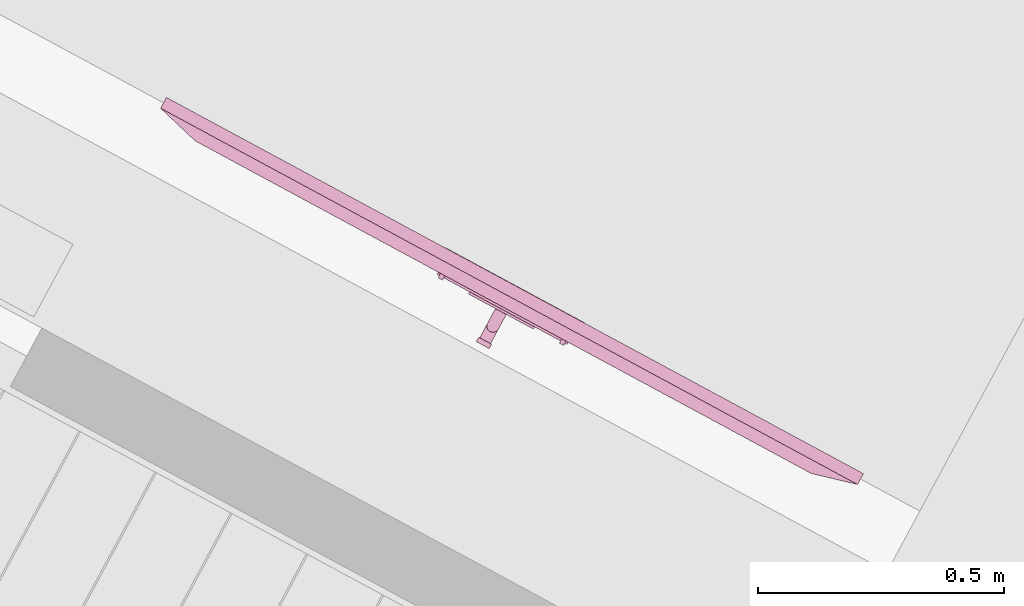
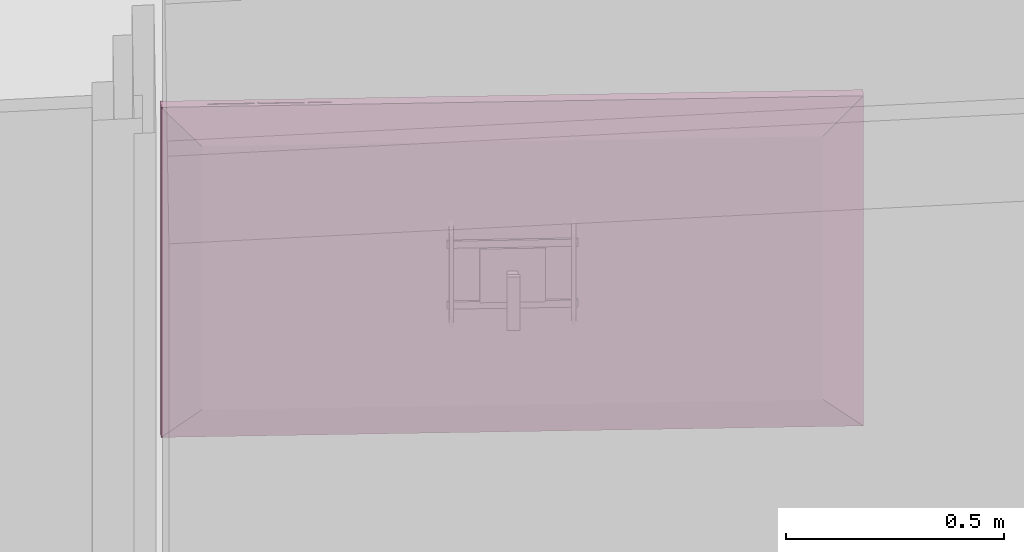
# One storey, part 22 of 48: 1 furnishing.
"""IFC2X3 building model written with IfcOpenShell, lengths in metres."""

import ifcopenshell
import ifcopenshell.guid

model = None  # the IFC model being written
_history = None  # IfcOwnerHistory: only IFC2X3 demands one
_inside = {}  # id of a spatial element -> (the spatial element, [elements in it])
_under = {}  # id of a project, library or spatial element -> (it, [spatial elements below it])
_declared = {}  # id of a project -> (the project, [libraries it declares])
_typed = {}  # id of a type object -> (the type object, [elements of that type])
_made_of = {}  # id of a material, layer set ... -> (it, [elements and type objects made of it])


def new_model(schema):
    """Start an empty IFC model of exactly this schema.

    Asked for "IFC4X3", IfcOpenShell would pick the latest addendum, in which some entities
    have other attributes; the version numbers below select the first issue.
    IFC2X3 requires an IfcOwnerHistory on every rooted entity: one is made here for all.
    """
    global model, _history
    if schema == "IFC4X3":
        model = ifcopenshell.file(schema_version=(4, 3, 0, 0))
    else:
        model = ifcopenshell.file(schema=schema)
    _inside.clear()
    _under.clear()
    _declared.clear()
    _typed.clear()
    _made_of.clear()
    _history = None
    if model.schema == "IFC2X3":
        org = make("IfcOrganization", Name="unknown")
        user = make(
            "IfcPersonAndOrganization",
            ThePerson=make("IfcPerson", FamilyName="unknown"),
            TheOrganization=org,
        )
        app = make(
            "IfcApplication",
            ApplicationDeveloper=org,
            Version="unknown",
            ApplicationFullName="unknown",
            ApplicationIdentifier="unknown",
        )
        _history = make(
            "IfcOwnerHistory",
            OwningUser=user,
            OwningApplication=app,
            ChangeAction="ADDED",
            CreationDate=0,
        )
    return model


def make(cls, **values):
    """One entity of the class cls with the attributes given. An attribute that is None is left unset."""
    return model.create_entity(
        cls, **{name: value for name, value in values.items() if value is not None}
    )


def entity(cls, *values):
    """Any entity or typed value of the class cls, its attributes in the order of the schema. None: left unset."""
    e = model.create_entity(cls)
    for i, value in enumerate(values):
        if value is not None:
            e[i] = value
    return e


def rooted(cls, **values):
    """An entity with a GlobalId (a new one), such as an element, a storey or a relation."""
    return make(cls, GlobalId=ifcopenshell.guid.new(), OwnerHistory=_history, **values)


def si_unit(unit_type, name, prefix=None):
    """IfcSIUnit, for example si_unit("LENGTHUNIT", "METRE", prefix="MILLI")."""
    return make("IfcSIUnit", UnitType=unit_type, Prefix=prefix, Name=name)


def converted_unit(unit_type, name, factor, base, dimensions=None, offset=None):
    """IfcConversionBasedUnit, such as the inch: factor (a typed value) times the base unit."""
    return make(
        "IfcConversionBasedUnit"
        if offset is None
        else "IfcConversionBasedUnitWithOffset",
        ConversionOffset=offset,
        Dimensions=None
        if dimensions is None
        else entity("IfcDimensionalExponents", *dimensions),
        UnitType=unit_type,
        Name=name,
        ConversionFactor=make(
            "IfcMeasureWithUnit", ValueComponent=factor, UnitComponent=base
        ),
    )


def derived_unit(unit_type, elements):
    """IfcDerivedUnit: a product of units, each with its exponent."""
    return make(
        "IfcDerivedUnit",
        Elements=[
            make("IfcDerivedUnitElement", Unit=unit, Exponent=power)
            for unit, power in elements
        ],
        UnitType=unit_type,
    )


def money_unit(currency):
    """IfcMonetaryUnit."""
    return make("IfcMonetaryUnit", Currency=currency)


def assignment(units):
    """IfcUnitAssignment: the units of a project."""
    return None if units is None else make("IfcUnitAssignment", Units=units)


def point(xyz):
    """IfcCartesianPoint."""
    return None if xyz is None else make("IfcCartesianPoint", Coordinates=xyz)


def direction(xyz):
    """IfcDirection."""
    return None if xyz is None else make("IfcDirection", DirectionRatios=xyz)


def frame(location, z_axis=None, x_axis=None):
    """IfcAxis2Placement3D, a coordinate frame: its origin and axes. An axis left out is left unset."""
    return make(
        "IfcAxis2Placement3D",
        Location=point(location),
        Axis=direction(z_axis),
        RefDirection=direction(x_axis),
    )


def origin_with_axes():
    """The frame at (0, 0, 0) with the z axis (0, 0, 1) and the x axis (1, 0, 0) written out."""
    return frame((0.0, 0.0, 0.0), z_axis=(0.0, 0.0, 1.0), x_axis=(1.0, 0.0, 0.0))


def place(relative_to, where):
    """IfcLocalPlacement: puts the frame where relative to a parent placement (None: the world)."""
    return make(
        "IfcLocalPlacement", PlacementRelTo=relative_to, RelativePlacement=where
    )


def context(
    kind, dimensions, precision=None, world=None, true_north=None, identifier=None
):
    """IfcGeometricRepresentationContext, for example the 3D "Model" context."""
    return make(
        "IfcGeometricRepresentationContext",
        ContextIdentifier=identifier,
        ContextType=kind,
        CoordinateSpaceDimension=dimensions,
        Precision=precision,
        WorldCoordinateSystem=world,
        TrueNorth=true_north,
    )


def subcontext(parent, identifier, kind, view, scale=None):
    """IfcGeometricRepresentationSubContext, for example "Body" below "Model"."""
    return make(
        "IfcGeometricRepresentationSubContext",
        ContextIdentifier=identifier,
        ContextType=kind,
        ParentContext=parent,
        TargetScale=scale,
        TargetView=view,
    )


def project(units=None, contexts=None):
    """IfcProject with its units and contexts."""
    return rooted(
        "IfcProject",
        Name="project",
        RepresentationContexts=contexts,
        UnitsInContext=assignment(units),
    )


def spatial(cls, under=None, at=None, **own):
    """A site, building, storey or space (cls), placed at a placement, below another one or the project."""
    s = rooted(cls, ObjectPlacement=at, **own)
    if under is not None:
        _under.setdefault(under.id(), (under, []))[1].append(s)
    return s


def faces_of(points, faces, orient=None, outer=None):
    """IfcFace entities. A face is a list of loops; a loop is a list of indices into points, from 0.

    orient and outer hold one flag for each loop. By default every Orientation is true, the
    first loop of a face is its IfcFaceOuterBound and the others are IfcFaceBound.
    """
    made = []
    for i, loops in enumerate(faces):
        bounds = []
        for j, loop in enumerate(loops):
            is_outer = j == 0 if outer is None else outer[i][j]
            bounds.append(
                make(
                    "IfcFaceOuterBound" if is_outer else "IfcFaceBound",
                    Bound=make("IfcPolyLoop", Polygon=[points[k] for k in loop]),
                    Orientation=True if orient is None else orient[i][j],
                )
            )
        made.append(make("IfcFace", Bounds=bounds))
    return made


def faceted_brep(points, faces, orient=None, outer=None, voids=None):
    """IfcFacetedBrep: a solid bounded by flat faces; with voids (closed shells), ...WithVoids."""
    shared = [point(p) for p in points]
    hull = make("IfcClosedShell", CfsFaces=faces_of(shared, faces, orient, outer))
    if voids is None:
        return make("IfcFacetedBrep", Outer=hull)
    return make(
        "IfcFacetedBrepWithVoids",
        Outer=hull,
        Voids=[
            make(cls, CfsFaces=faces_of(shared, fs, o, b)) for cls, fs, o, b in voids
        ],
    )


def shape(context_of_items, identifier, shape_type, items):
    """IfcShapeRepresentation: the items that make up one representation, for example the "Body"."""
    return make(
        "IfcShapeRepresentation",
        ContextOfItems=context_of_items,
        RepresentationIdentifier=identifier,
        RepresentationType=shape_type,
        Items=items,
    )


def source(mapping_origin, context_of_items, identifier, shape_type, items):
    """IfcRepresentationMap: a shape defined once, which mapped items show again and again."""
    return make(
        "IfcRepresentationMap",
        MappingOrigin=mapping_origin,
        MappedRepresentation=shape(context_of_items, identifier, shape_type, items),
    )


def transform(
    local_origin,
    x_axis=None,
    y_axis=None,
    z_axis=None,
    scale=None,
    scale2=None,
    scale3=None,
    uniform=True,
):
    """IfcCartesianTransformationOperator3D, or its non-uniform kind. x_axis, y_axis, z_axis: its Axis1, 2, 3."""
    if uniform:
        return make(
            "IfcCartesianTransformationOperator3D",
            Axis1=direction(x_axis),
            Axis2=direction(y_axis),
            LocalOrigin=point(local_origin),
            Scale=scale,
            Axis3=direction(z_axis),
        )
    return make(
        "IfcCartesianTransformationOperator3DnonUniform",
        Axis1=direction(x_axis),
        Axis2=direction(y_axis),
        LocalOrigin=point(local_origin),
        Scale=scale,
        Axis3=direction(z_axis),
        Scale2=scale2,
        Scale3=scale3,
    )


def mapped(mapping_source, mapping_target):
    """IfcMappedItem: shows the shape of a source again, moved by a transform."""
    return make(
        "IfcMappedItem", MappingSource=mapping_source, MappingTarget=mapping_target
    )


def made_of(thing, what):
    """Note that an element or type object is made of a material, layer set ...; save() writes the relation."""
    if what is not None:
        _made_of.setdefault(what.id(), (what, []))[1].append(thing)
    return thing


def type_object(cls, material=None, **own):
    """A type object (cls), such as IfcWallType, which elements share."""
    return made_of(rooted(cls, **own), material)


def element(
    cls,
    number,
    at=None,
    inside=None,
    cuts=None,
    type_object=None,
    material=None,
    context=None,
    identifier="Body",
    shape_type=None,
    held_by="IfcProductDefinitionShape",
    body=None,
    shapes=None,
    **own,
):
    """One element of the class cls, such as IfcWall. Its Tag is "e" and its number.

    at: its placement. inside: the storey or other place that contains it. cuts: it is an
    opening in that element (IfcRelVoidsElement). A single representation is given by context,
    identifier, shape_type and body (its items); several are given by shapes. held_by: the class
    of the entity that holds the representations. save() writes the other relations.
    """
    e = rooted(cls, Tag="e%d" % number, ObjectPlacement=at, **own)
    if body is not None:
        shapes = [shape(context, identifier, shape_type, body)]
    if shapes is not None:
        e.Representation = make(held_by, Representations=shapes)
    if inside is not None:
        _inside.setdefault(inside.id(), (inside, []))[1].append(e)
    if cuts is not None:
        rooted(
            "IfcRelVoidsElement", RelatingBuildingElement=cuts, RelatedOpeningElement=e
        )
    if type_object is not None:
        _typed.setdefault(type_object.id(), (type_object, []))[1].append(e)
    return made_of(e, material)


def aggregate(whole, parts):
    """IfcRelAggregates: a whole, such as a stair, and the parts it consists of."""
    return rooted("IfcRelAggregates", RelatingObject=whole, RelatedObjects=parts)


def save(model, path):
    """Write the relations noted so far, then the file.

    IfcRelAggregates (storeys below a building ...), IfcRelContainedInSpatialStructure (elements
    in a storey), IfcRelDefinesByType, IfcRelAssociatesMaterial and IfcRelDeclares: one each for
    every whole, place, type object, material and project.
    """
    for whole, parts in _under.values():
        aggregate(whole, parts)
    for where, things in _inside.values():
        rooted(
            "IfcRelContainedInSpatialStructure",
            RelatedElements=things,
            RelatingStructure=where,
        )
    for kind, things in _typed.values():
        rooted("IfcRelDefinesByType", RelatedObjects=things, RelatingType=kind)
    for what, things in _made_of.values():
        rooted("IfcRelAssociatesMaterial", RelatedObjects=things, RelatingMaterial=what)
    for by, libraries in _declared.values():
        rooted("IfcRelDeclares", RelatingContext=by, RelatedDefinitions=libraries)
    model.write(path)


model = new_model("IFC2X3")

# Units and contexts
model_context = context("Model", 3, precision=1e-05, world=origin_with_axes(), true_north=direction((0.0, 1.0)))
body_context = subcontext(model_context, "Body", "Model", "MODEL_VIEW")
ifc_project = project(units=[si_unit("LENGTHUNIT", "METRE"), si_unit("AREAUNIT", "SQUARE_METRE"), si_unit("VOLUMEUNIT", "CUBIC_METRE"), converted_unit("PLANEANGLEUNIT", "DEGREE", entity("IfcPlaneAngleMeasure", 0.0174532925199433), si_unit("PLANEANGLEUNIT", "RADIAN"), dimensions=[0, 0, 0, 0, 0, 0, 0]), money_unit("EUR"), converted_unit("TIMEUNIT", "Year", entity("IfcTimeMeasure", 31556926.0), si_unit("TIMEUNIT", "SECOND"), dimensions=[0, 0, 1, 0, 0, 0, 0]), si_unit("MASSUNIT", "GRAM", prefix="KILO"), si_unit("THERMODYNAMICTEMPERATUREUNIT", "DEGREE_CELSIUS"), si_unit("LUMINOUSINTENSITYUNIT", "LUMEN"), si_unit("ENERGYUNIT", "JOULE", prefix="MEGA"), derived_unit("THERMALCONDUCTANCEUNIT", [(si_unit("POWERUNIT", "WATT"), 1), (si_unit("LENGTHUNIT", "METRE"), -1), (si_unit("THERMODYNAMICTEMPERATUREUNIT", "KELVIN"), -1)]), derived_unit("SPECIFICHEATCAPACITYUNIT", [(si_unit("ENERGYUNIT", "JOULE"), 1), (si_unit("MASSUNIT", "GRAM", prefix="KILO"), -1), (si_unit("THERMODYNAMICTEMPERATUREUNIT", "KELVIN"), -1)]), derived_unit("MASSDENSITYUNIT", [(si_unit("MASSUNIT", "GRAM", prefix="KILO"), 1), (si_unit("VOLUMEUNIT", "CUBIC_METRE"), -1)])], contexts=[model_context])

# Site, building, storey
site_placement = place(None, frame((-3.949935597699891, 1.740105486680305, 0.0), z_axis=(0.0, 0.0, 1.0), x_axis=(0.8799804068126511, -0.475009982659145, 0.0)))
site = spatial("IfcSite", under=ifc_project, at=site_placement, Name="Gelände", CompositionType="ELEMENT")
building_placement = place(site_placement, origin_with_axes())
building = spatial("IfcBuilding", under=site, at=building_placement, Name="Gebäude", CompositionType="ELEMENT")
storey_placement = place(building_placement, frame((0.0, 0.0, 4.55), z_axis=(0.0, 0.0, 1.0), x_axis=(1.0, 0.0, 0.0)))
storey = spatial("IfcBuildingStorey", under=building, at=storey_placement, Name="Staffelgeschoss", CompositionType="ELEMENT", Elevation=4.55)

# Furnishing
furnishing_element_type = type_object("IfcFurnishingElementType", Name="Flachbildfernseher 22")
shared_shape = source(origin_with_axes(), body_context, "Body", "Brep", [
    faceted_brep([(-0.7294179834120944, 0.06000000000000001, 0.5362351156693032), (-0.8794179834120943, 0.06000000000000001, 0.5362351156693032), (-0.8794179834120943, 0.05000000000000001, 0.5362351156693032), (-0.7294179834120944, 0.05000000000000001, 0.5362351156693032), (-0.7294179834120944, 0.06, 0.3862351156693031), (-0.8794179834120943, 0.06, 0.3862351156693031), (-0.8794179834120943, 0.05, 0.3862351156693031), (-0.7294179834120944, 0.05, 0.3862351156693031)], [[[0, 1, 2, 3]], [[0, 4, 5, 1]], [[1, 5, 6, 2]], [[3, 2, 6, 7]], [[4, 0, 3, 7]], [[5, 4, 7, 6]]]),
    faceted_brep([(-0.6544179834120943, 0.055, 0.3662351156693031), (-0.6544179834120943, 0.055, 0.3862351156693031), (-0.6544179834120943, 0.05, 0.3862351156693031), (-0.6544179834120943, 0.05, 0.3662351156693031), (-0.9544179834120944, 0.055, 0.3662351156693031), (-0.9544179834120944, 0.055, 0.3862351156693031), (-0.9544179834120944, 0.05, 0.3862351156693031), (-0.9544179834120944, 0.05, 0.3662351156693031)], [[[0, 1, 2, 3]], [[0, 4, 5, 1]], [[1, 5, 6, 2]], [[3, 2, 6, 7]], [[4, 0, 3, 7]], [[5, 4, 7, 6]]]),
    faceted_brep([(-0.6544179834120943, 0.05500000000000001, 0.5562351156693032), (-0.6544179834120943, 0.05000000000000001, 0.5562351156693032), (-0.6544179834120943, 0.05000000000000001, 0.5362351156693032), (-0.6544179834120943, 0.05500000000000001, 0.5362351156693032), (-0.9544179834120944, 0.05500000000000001, 0.5562351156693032), (-0.9544179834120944, 0.05000000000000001, 0.5562351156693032), (-0.9544179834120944, 0.05000000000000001, 0.5362351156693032), (-0.9544179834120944, 0.05500000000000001, 0.5362351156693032)], [[[0, 1, 2, 3]], [[4, 5, 1, 0]], [[1, 5, 6, 2]], [[3, 2, 6, 7]], [[0, 3, 7, 4]], [[7, 6, 5, 4]]]),
    faceted_brep([(-0.6694179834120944, 0.05999999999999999, 0.3487351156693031), (-0.6694179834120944, 0.06, 0.5737351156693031), (-0.6594179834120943, 0.06, 0.5737351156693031), (-0.6594179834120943, 0.05999999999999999, 0.3487351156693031), (-0.6694179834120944, 0.04999999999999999, 0.3112351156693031), (-0.6694179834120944, 0.05, 0.6112351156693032), (-0.6594179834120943, 0.05, 0.6112351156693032), (-0.6594179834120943, 0.04999999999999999, 0.3112351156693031)], [[[0, 1, 2, 3]], [[0, 4, 5, 1]], [[1, 5, 6, 2]], [[3, 2, 6, 7]], [[4, 0, 3, 7]], [[5, 4, 7, 6]]]),
    faceted_brep([(-0.9394179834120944, 0.06, 0.3487351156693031), (-0.9494179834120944, 0.06, 0.3487351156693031), (-0.9494179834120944, 0.06000000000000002, 0.5737351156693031), (-0.9394179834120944, 0.06000000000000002, 0.5737351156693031), (-0.9394179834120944, 0.05, 0.3112351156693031), (-0.9494179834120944, 0.05, 0.3112351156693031), (-0.9494179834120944, 0.05000000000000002, 0.6112351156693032), (-0.9394179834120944, 0.05000000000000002, 0.6112351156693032)], [[[0, 1, 2, 3]], [[4, 5, 1, 0]], [[1, 5, 6, 2]], [[3, 2, 6, 7]], [[0, 3, 7, 4]], [[7, 6, 5, 4]]]),
    faceted_brep([(-0.8169179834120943, 0.09375000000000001, 0.4737351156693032), (-0.8161641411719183, 0.09802525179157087, 0.4737351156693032), (-0.8161641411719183, 0.09802525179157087, 0.4237351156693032), (-0.8169179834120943, 0.09375000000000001, 0.4237351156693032), (-0.8161641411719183, 0.08947474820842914, 0.4737351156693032), (-0.8139935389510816, 0.08571515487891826, 0.4737351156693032), (-0.8106679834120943, 0.08292468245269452, 0.4737351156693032), (-0.806588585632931, 0.0814399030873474, 0.4737351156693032), (-0.8022473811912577, 0.08143990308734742, 0.4737351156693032), (-0.7981679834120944, 0.08292468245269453, 0.4737351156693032), (-0.7948424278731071, 0.08571515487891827, 0.4737351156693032), (-0.7926718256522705, 0.08947474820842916, 0.4737351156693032), (-0.7919179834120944, 0.09375000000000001, 0.4737351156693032), (-0.7926718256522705, 0.09802525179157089, 0.4737351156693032), (-0.7948424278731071, 0.1017848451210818, 0.4737351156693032), (-0.7981679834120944, 0.1045753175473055, 0.4737351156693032), (-0.8022473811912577, 0.1060600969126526, 0.4737351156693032), (-0.806588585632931, 0.1060600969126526, 0.4737351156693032), (-0.8106679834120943, 0.1045753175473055, 0.4737351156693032), (-0.8139935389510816, 0.1017848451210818, 0.4737351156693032), (-0.8139935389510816, 0.1017848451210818, 0.4237351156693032), (-0.8106679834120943, 0.1045753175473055, 0.4237351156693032), (-0.806588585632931, 0.1060600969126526, 0.4237351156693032), (-0.8022473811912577, 0.1060600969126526, 0.4237351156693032), (-0.7981679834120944, 0.1045753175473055, 0.4237351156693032), (-0.7948424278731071, 0.1017848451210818, 0.4237351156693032), (-0.7926718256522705, 0.09802525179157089, 0.4237351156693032), (-0.7919179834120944, 0.09375000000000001, 0.4237351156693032), (-0.7926718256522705, 0.08947474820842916, 0.4237351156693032), (-0.7948424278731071, 0.08571515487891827, 0.4237351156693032), (-0.7981679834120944, 0.08292468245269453, 0.4237351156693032), (-0.8022473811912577, 0.08143990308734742, 0.4237351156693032), (-0.806588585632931, 0.0814399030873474, 0.4237351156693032), (-0.8106679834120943, 0.08292468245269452, 0.4237351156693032), (-0.8139935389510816, 0.08571515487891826, 0.4237351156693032), (-0.8161641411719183, 0.08947474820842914, 0.4237351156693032)], [[[0, 1, 2, 3]], [[0, 4, 5, 6, 7, 8, 9, 10, 11, 12, 13, 14, 15, 16, 17, 18, 19, 1]], [[1, 19, 20, 2]], [[3, 2, 20, 21, 22, 23, 24, 25, 26, 27, 28, 29, 30, 31, 32, 33, 34, 35]], [[4, 0, 3, 35]], [[5, 4, 35, 34]], [[6, 5, 34, 33]], [[7, 6, 33, 32]], [[8, 7, 32, 31]], [[9, 8, 31, 30]], [[10, 9, 30, 29]], [[11, 10, 29, 28]], [[12, 11, 28, 27]], [[13, 12, 27, 26]], [[14, 13, 26, 25]], [[15, 14, 25, 24]], [[16, 15, 24, 23]], [[17, 16, 23, 22]], [[18, 17, 22, 21]], [[19, 18, 21, 20]]]),
    faceted_brep([(-0.8169179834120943, 0.09375000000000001, 0.4487351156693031), (-0.8169179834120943, 0.06, 0.4487351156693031), (-0.8169179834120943, 0.06, 0.4737351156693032), (-0.8169179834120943, 0.09375000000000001, 0.4737351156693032), (-0.8161641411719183, 0.08947474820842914, 0.4487351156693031), (-0.8139935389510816, 0.08571515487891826, 0.4487351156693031), (-0.8106679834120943, 0.08292468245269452, 0.4487351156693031), (-0.806588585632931, 0.0814399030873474, 0.4487351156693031), (-0.8022473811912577, 0.08143990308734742, 0.4487351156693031), (-0.7981679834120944, 0.08292468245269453, 0.4487351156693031), (-0.7948424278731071, 0.08571515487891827, 0.4487351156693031), (-0.7926718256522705, 0.08947474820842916, 0.4487351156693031), (-0.7919179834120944, 0.09375000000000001, 0.4487351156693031), (-0.7919179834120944, 0.06, 0.4487351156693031), (-0.7919179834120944, 0.06, 0.4737351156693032), (-0.7926718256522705, 0.08947474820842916, 0.4737351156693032), (-0.7948424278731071, 0.08571515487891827, 0.4737351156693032), (-0.7981679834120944, 0.08292468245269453, 0.4737351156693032), (-0.8022473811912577, 0.08143990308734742, 0.4737351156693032), (-0.806588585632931, 0.0814399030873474, 0.4737351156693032), (-0.8106679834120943, 0.08292468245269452, 0.4737351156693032), (-0.8139935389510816, 0.08571515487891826, 0.4737351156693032), (-0.8161641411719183, 0.08947474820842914, 0.4737351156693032), (-0.7919179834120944, 0.09375000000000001, 0.4737351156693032)], [[[0, 1, 2, 3]], [[4, 5, 6, 7, 8, 9, 10, 11, 12, 13, 1, 0]], [[1, 13, 14, 2]], [[15, 16, 17, 18, 19, 20, 21, 22, 3, 2, 14, 23]], [[22, 4, 0, 3]], [[21, 5, 4, 22]], [[20, 6, 5, 21]], [[19, 7, 6, 20]], [[18, 8, 7, 19]], [[17, 9, 8, 18]], [[16, 10, 9, 17]], [[15, 11, 10, 16]], [[23, 12, 11, 15]], [[23, 14, 13, 12]]]),
    faceted_brep([(-0.8139935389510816, 0.1017848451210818, 0.4487351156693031), (-0.8106679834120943, 0.1045753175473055, 0.4487351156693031), (-0.806588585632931, 0.1060600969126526, 0.4487351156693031), (-0.8022473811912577, 0.1060600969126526, 0.4487351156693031), (-0.7981679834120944, 0.1045753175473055, 0.4487351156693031), (-0.7948424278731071, 0.1017848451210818, 0.4487351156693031), (-0.7926718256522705, 0.09802525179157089, 0.4487351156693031), (-0.7919179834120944, 0.09375000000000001, 0.4487351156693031), (-0.7919179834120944, 0.1275, 0.4487351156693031), (-0.8169179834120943, 0.1275, 0.4487351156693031), (-0.8169179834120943, 0.09375000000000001, 0.4487351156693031), (-0.8161641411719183, 0.09802525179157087, 0.4487351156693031), (-0.8139935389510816, 0.1017848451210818, 0.4237351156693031), (-0.8106679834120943, 0.1045753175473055, 0.4237351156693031), (-0.806588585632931, 0.1060600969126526, 0.4237351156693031), (-0.8022473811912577, 0.1060600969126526, 0.4237351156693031), (-0.7981679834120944, 0.1045753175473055, 0.4237351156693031), (-0.7948424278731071, 0.1017848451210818, 0.4237351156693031), (-0.7926718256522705, 0.09802525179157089, 0.4237351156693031), (-0.7919179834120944, 0.09375000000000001, 0.4237351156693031), (-0.7919179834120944, 0.1275, 0.4237351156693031), (-0.8169179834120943, 0.1275, 0.4237351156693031), (-0.8169179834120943, 0.09375000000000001, 0.4237351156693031), (-0.8161641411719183, 0.09802525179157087, 0.4237351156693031)], [[[0, 1, 2, 3, 4, 5, 6, 7, 8, 9, 10, 11]], [[0, 12, 13, 1]], [[1, 13, 14, 2]], [[2, 14, 15, 3]], [[3, 15, 16, 4]], [[4, 16, 17, 5]], [[5, 17, 18, 6]], [[6, 18, 19, 7]], [[19, 20, 8, 7]], [[8, 20, 21, 9]], [[10, 9, 21, 22]], [[10, 22, 23, 11]], [[11, 23, 12, 0]], [[18, 17, 16, 15, 14, 13, 12, 23, 22, 21, 20, 19]]]),
    faceted_brep([(-0.7894179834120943, 0.1275, 0.3612351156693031), (-0.8194179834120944, 0.1275, 0.3612351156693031), (-0.8194179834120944, 0.1375, 0.3612351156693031), (-0.7894179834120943, 0.1375, 0.3612351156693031), (-0.7894179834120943, 0.1275, 0.5112351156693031), (-0.8194179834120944, 0.1275, 0.5112351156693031), (-0.8194179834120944, 0.1375, 0.5112351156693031), (-0.7894179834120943, 0.1375, 0.5112351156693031)], [[[0, 1, 2, 3]], [[0, 4, 5, 1]], [[1, 5, 6, 2]], [[3, 2, 6, 7]], [[4, 0, 3, 7]], [[5, 4, 7, 6]]]),
    faceted_brep([(-1.588835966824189, 0.0, 0.02), (-1.588835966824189, 0.0, 0.9024702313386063), (-1.588835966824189, 0.0009999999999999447, 0.9024702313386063), (-1.588835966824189, 0.0009999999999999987, 0.02), (-0.02, 0.0, 0.02), (-0.02, 0.0, 0.9024702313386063), (-0.02, 0.0009999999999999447, 0.9024702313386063), (-0.02, 0.0009999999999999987, 0.02)], [[[0, 1, 2, 3]], [[0, 4, 5, 1]], [[1, 5, 6, 2]], [[3, 2, 6, 7]], [[4, 0, 3, 7]], [[5, 4, 7, 6]]]),
    faceted_brep([(-1.608835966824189, 0.0, 0.9224702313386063), (-1.608835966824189, 0.0, 0.0), (0.0, 0.0, 0.0), (0.0, 0.0, 0.9224702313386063), (-0.02000000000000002, 0.0, 0.02000000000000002), (-1.588835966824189, 0.0, 0.02000000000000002), (-1.588835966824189, 0.0, 0.9024702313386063), (-0.02000000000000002, 0.0, 0.9024702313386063), (-1.608835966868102, 0.025, -3.895163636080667e-10), (-1.608835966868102, 0.02499999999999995, 0.9224702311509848), (3.895163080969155e-10, 0.025, -3.895163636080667e-10), (3.895163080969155e-10, 0.02499999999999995, 0.9224702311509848), (-0.02000000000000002, 0.0009999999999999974, 0.02000000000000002), (-1.588835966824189, 0.0009999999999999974, 0.02000000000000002), (-1.588835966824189, 0.0009999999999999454, 0.9024702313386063), (-0.02000000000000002, 0.0009999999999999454, 0.9024702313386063), (-1.515534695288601, 0.05000000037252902, 0.09330127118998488), (-1.515534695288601, 0.05000000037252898, 0.8291689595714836), (-0.09330127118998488, 0.05000000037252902, 0.09330127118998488), (-0.09330127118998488, 0.05000000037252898, 0.8291689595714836)], [[[0, 1, 2, 3], [4, 5, 6, 7]], [[8, 1, 0, 9]], [[10, 2, 1, 8]], [[11, 3, 2, 10]], [[9, 0, 3, 11]], [[4, 12, 13, 5]], [[5, 13, 14, 6]], [[6, 14, 15, 7]], [[7, 15, 12, 4]], [[16, 8, 9, 17]], [[18, 10, 8, 16]], [[19, 11, 10, 18]], [[17, 9, 11, 19]], [[14, 13, 12, 15]], [[17, 19, 18, 16]]]),
    faceted_brep([(-0.8044179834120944, -0.0008000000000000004, 0.005), (-0.8205063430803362, -0.0008000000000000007, 0.01), (-0.8205063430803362, 0.0, 0.01), (-0.8044179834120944, 0.0, 0.005), (-0.7883296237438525, -0.0008000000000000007, 0.01), (-0.6435343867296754, -0.000800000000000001, 0.015), (-0.9653015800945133, -0.000800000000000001, 0.015), (-0.9653015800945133, 0.0, 0.015), (-0.6435343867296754, 0.0, 0.015), (-0.7883296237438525, 0.0, 0.01)], [[[0, 1, 2, 3]], [[0, 4, 5, 6, 1]], [[1, 6, 7, 2]], [[3, 2, 7, 8, 9]], [[4, 0, 3, 9]], [[5, 4, 9, 8]], [[6, 5, 8, 7]]]),
    faceted_brep([(-0.2145114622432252, 0.009999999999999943, 0.9224702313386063), (-0.1072557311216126, 0.009999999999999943, 0.9224702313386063), (-0.1072557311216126, 0.009999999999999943, 0.9240702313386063), (-0.2145114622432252, 0.009999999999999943, 0.9240702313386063), (-0.2145114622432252, 0.01624999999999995, 0.9224702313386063), (-0.1072557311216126, 0.01624999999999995, 0.9224702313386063), (-0.1072557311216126, 0.01624999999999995, 0.9240702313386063), (-0.2145114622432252, 0.01624999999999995, 0.9240702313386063)], [[[0, 1, 2, 3]], [[1, 0, 4, 5]], [[2, 1, 5, 6]], [[3, 2, 6, 7]], [[0, 3, 7, 4]], [[5, 4, 7, 6]]]),
    faceted_brep([(-0.3294283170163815, 0.009999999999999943, 0.9224702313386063), (-0.2221725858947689, 0.009999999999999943, 0.9224702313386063), (-0.2221725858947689, 0.009999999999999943, 0.9240702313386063), (-0.3294283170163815, 0.009999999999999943, 0.9240702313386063), (-0.3294283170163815, 0.01624999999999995, 0.9224702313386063), (-0.2221725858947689, 0.01624999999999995, 0.9224702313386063), (-0.2221725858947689, 0.01624999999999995, 0.9240702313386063), (-0.3294283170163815, 0.01624999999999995, 0.9240702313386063)], [[[0, 1, 2, 3]], [[1, 0, 4, 5]], [[2, 1, 5, 6]], [[3, 2, 6, 7]], [[0, 3, 7, 4]], [[5, 4, 7, 6]]]),
    faceted_brep([(-0.3907173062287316, 0.009999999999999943, 0.9224702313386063), (-0.3370894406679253, 0.009999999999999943, 0.9224702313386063), (-0.3370894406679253, 0.009999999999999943, 0.9240702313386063), (-0.3907173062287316, 0.009999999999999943, 0.9240702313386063), (-0.3907173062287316, 0.01624999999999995, 0.9224702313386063), (-0.3370894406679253, 0.01624999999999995, 0.9224702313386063), (-0.3370894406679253, 0.01624999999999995, 0.9240702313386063), (-0.3907173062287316, 0.01624999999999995, 0.9240702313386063)], [[[0, 1, 2, 3]], [[1, 0, 4, 5]], [[2, 1, 5, 6]], [[3, 2, 6, 7]], [[0, 3, 7, 4]], [[5, 4, 7, 6]]]),
])
furnishing_placement = place(storey_placement, frame((9.0724806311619, 1.777487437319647, 0.3499999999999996), z_axis=(0.0, 0.0, 1.0), x_axis=(-1.0, 0.0, 0.0)))
element("IfcFurnishingElement", 1, at=furnishing_placement, inside=storey, type_object=furnishing_element_type, Name="Objekt-0064", context=body_context, shape_type="MappedRepresentation", body=[
    mapped(shared_shape, transform((0.0, 0.0, 0.0))),
])

save(model, "model.ifc")
